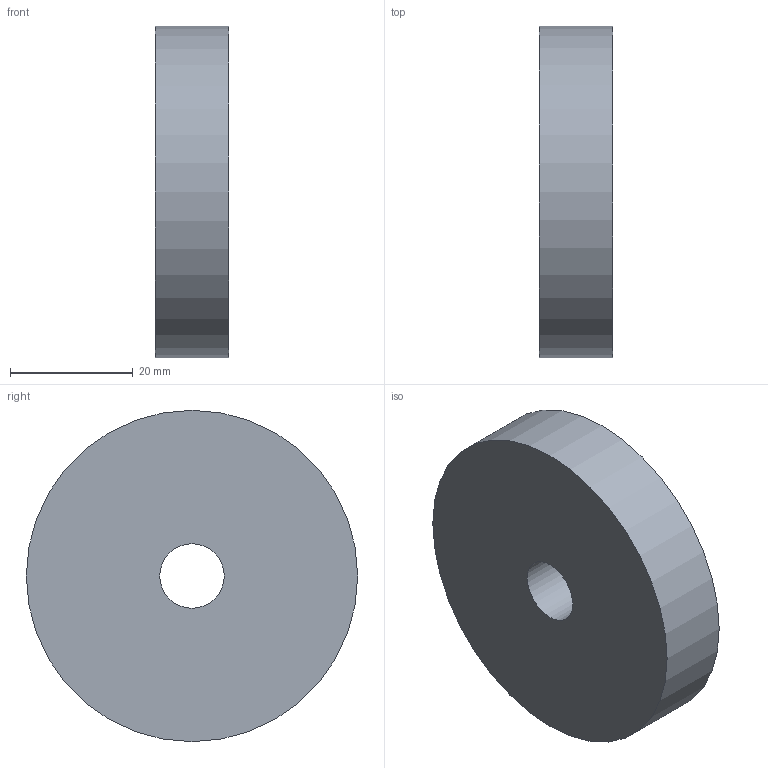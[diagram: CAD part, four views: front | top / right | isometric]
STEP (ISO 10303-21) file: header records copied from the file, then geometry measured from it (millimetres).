
FILE_DESCRIPTION(('Open CASCADE Model'),'2;1');
FILE_NAME('Open CASCADE Shape Model','2026-09-19T23:46:41',('Author'),( 'Open CASCADE'),'Open CASCADE STEP processor 7.9','Open CASCADE 7.9' ,'Unknown');
FILE_SCHEMA(('AUTOMOTIVE_DESIGN { 1 0 10303 214 1 1 1 1 }'));
Length unit declared in the file: millimetre
Products named in the file (1): Open CASCADE STEP translator 7.9 88
Bounding box: 12 x 54 x 54 mm (x, y, z)
Volume: 26443.6 mm3; surface area: 6838.9 mm2
Topology: 1 solids, 1 shells, 4 faces, 6 edges, 4 vertices
Faces by surface type: cylinder 2, plane 2
Full cylindrical faces by diameter (mm): 10.5 x1, 54 x1
Entity records: 186 total; most frequent: DIRECTION 32, CARTESIAN_POINT 27, ORIENTED_EDGE 12, PCURVE 12, DEFINITIONAL_REPRESENTATION 12, LINE 10, VECTOR 10, AXIS2_PLACEMENT_3D 9
